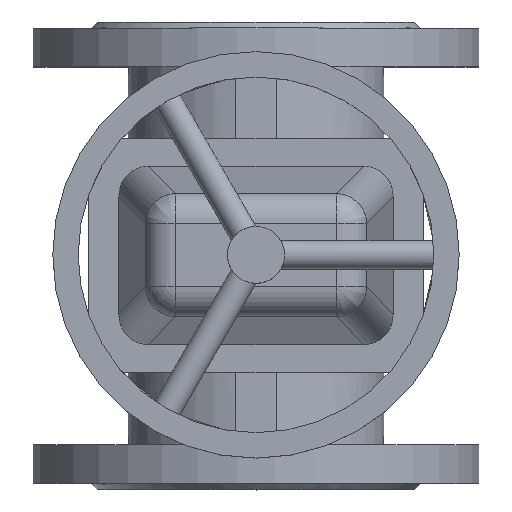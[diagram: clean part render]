
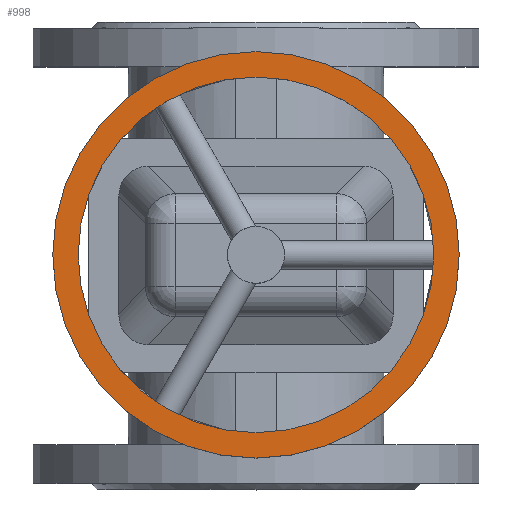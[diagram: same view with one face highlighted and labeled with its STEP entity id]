
A CAD part, top view. The second image highlights one B-rep face of the part: STEP entity #998.
In plain terms, the highlighted planar face has unit normal (0, 0, 1).
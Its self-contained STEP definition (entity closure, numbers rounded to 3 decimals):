
#998=ADVANCED_FACE('',(#2146,#2148),#2150,.T.);
#2146=FACE_BOUND('',#2147,.T.);
#2147=EDGE_LOOP('',(#2741));
#2148=FACE_BOUND('',#2149,.T.);
#2149=EDGE_LOOP('',(#2742));
#2150=PLANE('',#2151);
#2151=AXIS2_PLACEMENT_3D('',#2152,#2153,#2154);
#2152=CARTESIAN_POINT('',(0.,0.,324.5));
#2153=DIRECTION('',(0.,0.,1.));
#2154=DIRECTION('',(0.,-1.,0.));
#2741=ORIENTED_EDGE('',*,*,#3032,.T.);
#2742=ORIENTED_EDGE('',*,*,#3030,.T.);
#3030=EDGE_CURVE('',#3514,#3514,#3515,.F.);
#3032=EDGE_CURVE('',#3518,#3518,#3519,.T.);
#3514=VERTEX_POINT('',#6056);
#3515=CIRCLE('',#6057,87.5);
#3518=VERTEX_POINT('',#6066);
#3519=CIRCLE('',#6067,100.);
#6056=CARTESIAN_POINT('',(0.,-87.5,324.5));
#6057=AXIS2_PLACEMENT_3D('',#6058,#6059,#6060);
#6058=CARTESIAN_POINT('',(0.,0.,324.5));
#6059=DIRECTION('',(0.,0.,1.));
#6060=DIRECTION('',(0.,-1.,0.));
#6066=CARTESIAN_POINT('',(0.,-100.,324.5));
#6067=AXIS2_PLACEMENT_3D('',#6068,#6069,#6070);
#6068=CARTESIAN_POINT('',(0.,0.,324.5));
#6069=DIRECTION('',(0.,0.,1.));
#6070=DIRECTION('',(0.,-1.,0.));
